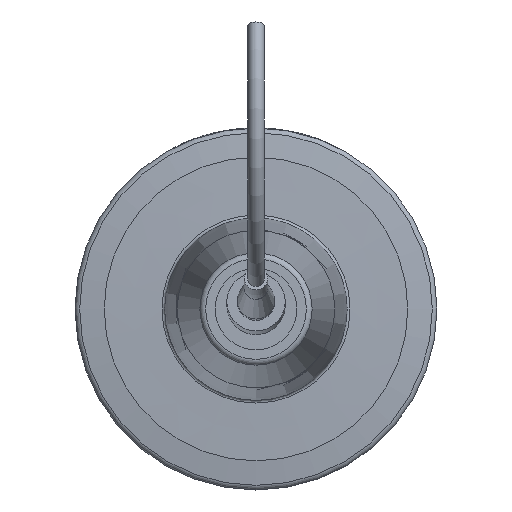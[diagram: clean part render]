
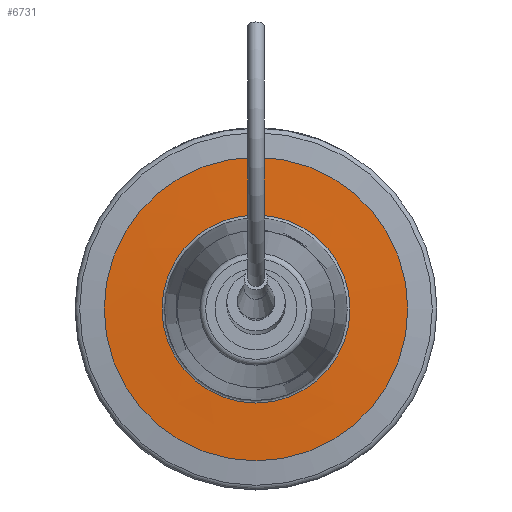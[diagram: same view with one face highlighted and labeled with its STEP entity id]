
A CAD part, left-side view. The second image highlights one B-rep face of the part: STEP entity #6731.
In plain terms, the highlighted conical face has half-angle 88 degrees and reference radius 26 mm.
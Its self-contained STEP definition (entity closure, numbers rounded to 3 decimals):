
#1249 = AXIS2_PLACEMENT_3D ( 'NONE', #24984, #7584, #42610 ) ;
#4698 = CIRCLE ( 'NONE', #15651, 16.101 ) ;
#6731 = ADVANCED_FACE ( 'NONE', ( #36826, #13350 ), #19690, .T. ) ;
#7584 = DIRECTION ( 'NONE',  ( -1., 0., 0. ) ) ;
#9820 = CARTESIAN_POINT ( 'NONE',  ( -80.132, 0., 26. ) ) ;
#12140 = VERTEX_POINT ( 'NONE', #37714 ) ;
#13350 = FACE_BOUND ( 'NONE', #19868, .T. ) ;
#15651 = AXIS2_PLACEMENT_3D ( 'NONE', #25309, #42507, #28744 ) ;
#16331 = ORIENTED_EDGE ( 'NONE', *, *, #32157, .F. ) ;
#19690 = CONICAL_SURFACE ( 'NONE', #29718, 26., 1.536 ) ;
#19868 = EDGE_LOOP ( 'NONE', ( #16331 ) ) ;
#21039 = VERTEX_POINT ( 'NONE', #9820 ) ;
#23900 = EDGE_LOOP ( 'NONE', ( #44029 ) ) ;
#24984 = CARTESIAN_POINT ( 'NONE',  ( -80.132, 0., 0. ) ) ;
#25309 = CARTESIAN_POINT ( 'NONE',  ( -80.478, 0., 0. ) ) ;
#25394 = DIRECTION ( 'NONE',  ( 1., 0., 0. ) ) ;
#28744 = DIRECTION ( 'NONE',  ( 0., 0., 1. ) ) ;
#29718 = AXIS2_PLACEMENT_3D ( 'NONE', #32107, #25394, #31834 ) ;
#31834 = DIRECTION ( 'NONE',  ( 0., 0., -1. ) ) ;
#32107 = CARTESIAN_POINT ( 'NONE',  ( -80.132, 0., 0. ) ) ;
#32157 = EDGE_CURVE ( 'NONE', #12140, #12140, #4698, .T. ) ;
#36826 = FACE_OUTER_BOUND ( 'NONE', #23900, .T. ) ;
#37714 = CARTESIAN_POINT ( 'NONE',  ( -80.478, 0., 16.101 ) ) ;
#38181 = CIRCLE ( 'NONE', #1249, 26. ) ;
#40504 = EDGE_CURVE ( 'NONE', #21039, #21039, #38181, .T. ) ;
#42507 = DIRECTION ( 'NONE',  ( -1., 0., 0. ) ) ;
#42610 = DIRECTION ( 'NONE',  ( 0., 0., 1. ) ) ;
#44029 = ORIENTED_EDGE ( 'NONE', *, *, #40504, .T. ) ;
